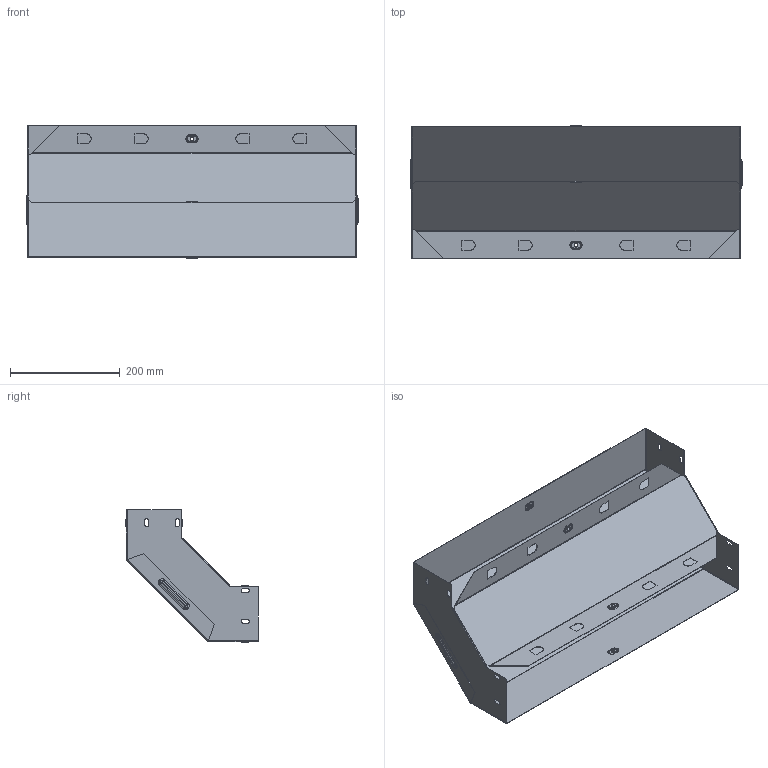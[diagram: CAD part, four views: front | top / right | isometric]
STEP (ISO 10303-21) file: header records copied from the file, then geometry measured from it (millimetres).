
FILE_DESCRIPTION (( 'STEP AP214' ), '1' );
FILE_NAME ('vo90100600_捘.STEP', '2019-06-10T09:06:40', ( '砐錪賧瘔蠈錪 Windows' ), ( '' ), 'SwSTEP 2.0', 'SolidWorks 2018', '' );
FILE_SCHEMA (( 'AUTOMOTIVE_DESIGN' ));
Length unit declared in the file: millimetre
Products named in the file (1): vo90100600_捘
Bounding box: 605.6 x 242.31 x 242.31 mm (x, y, z)
Volume: 347134.9 mm3; surface area: 872433.5 mm2
Topology: 2 solids, 2 shells, 312 faces, 756 edges, 464 vertices
Faces by surface type: plane 124, cylinder 116, torus 64, bspline 8
Entity records: 9355 total; most frequent: CARTESIAN_POINT 1781, DIRECTION 1646, ORIENTED_EDGE 1512, EDGE_CURVE 756, AXIS2_PLACEMENT_3D 617, VERTEX_POINT 464, LINE 412, VECTOR 412
